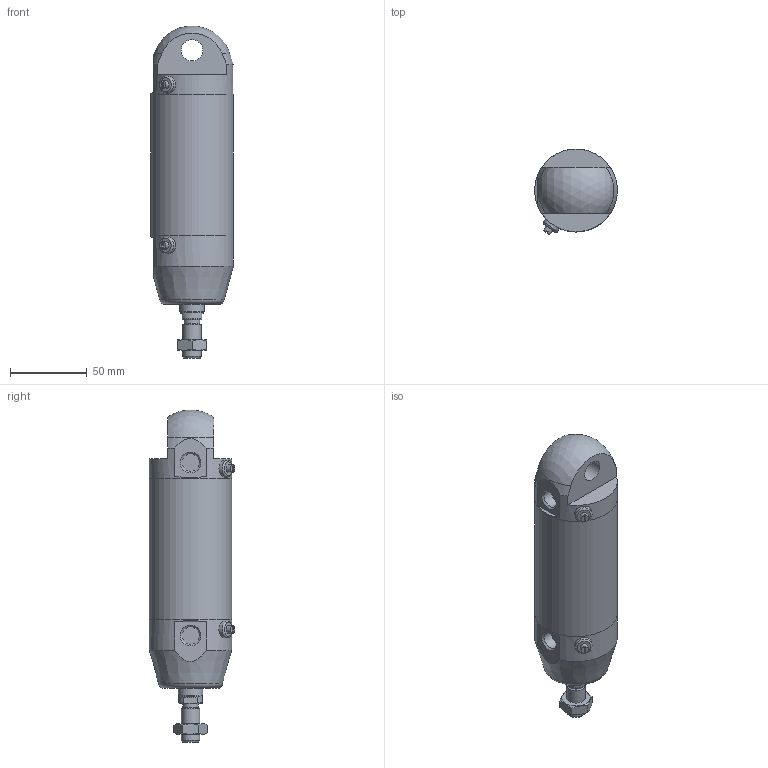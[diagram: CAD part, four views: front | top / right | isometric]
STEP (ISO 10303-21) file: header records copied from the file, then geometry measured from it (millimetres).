
FILE_DESCRIPTION(/* description */ (''),/* implementation_level */ '2;1');
FILE_NAME(/* name */ 'I:\Area Tecnica\Documenti\A-Manieri\_Inventor\12X\12X#A_###_####_#_#\12XBA_050_0050_#_#.stp',/* time_stamp */ '2015-04-24T09:18:30+02:00',/* author */ ('maniean1'),/* organization */ ('Pneumax S.p.A.'),/* preprocessor_version */ 'ST-DEVELOPER v15.2',/* originating_system */ 'Autodesk Inventor 2014',/* authorisation */ '');
FILE_SCHEMA (('AUTOMOTIVE_DESIGN { 1 0 10303 214 3 1 1 }'));
Length unit declared in the file: millimetre
Products named in the file (6): C1250_619-0050; 12X50_614; 12X50_607; S12X50_0050; 12X_50_11; 12XBA_050_0050_#_#
Bounding box: 54 x 55.88 x 216.83 mm (x, y, z)
Volume: 281247.7 mm3; surface area: 72848.2 mm2
Topology: 5 solids, 5 shells, 77 faces, 168 edges, 109 vertices
Faces by surface type: plane 43, cylinder 18, cone 12, torus 3, sphere 1
Full cylindrical faces by diameter (mm): 5 x2, 10.2 x1, 11 x2, 11.4 x2, 12 x2, 14 x2, 15.6 x1, 16 x1, 50 x2, 54 x3
Entity records: 2072 total; most frequent: CARTESIAN_POINT 428, DIRECTION 346, ORIENTED_EDGE 260, AXIS2_PLACEMENT_3D 152, EDGE_CURVE 130, EDGE_LOOP 122, VERTEX_POINT 100, ADVANCED_FACE 77
